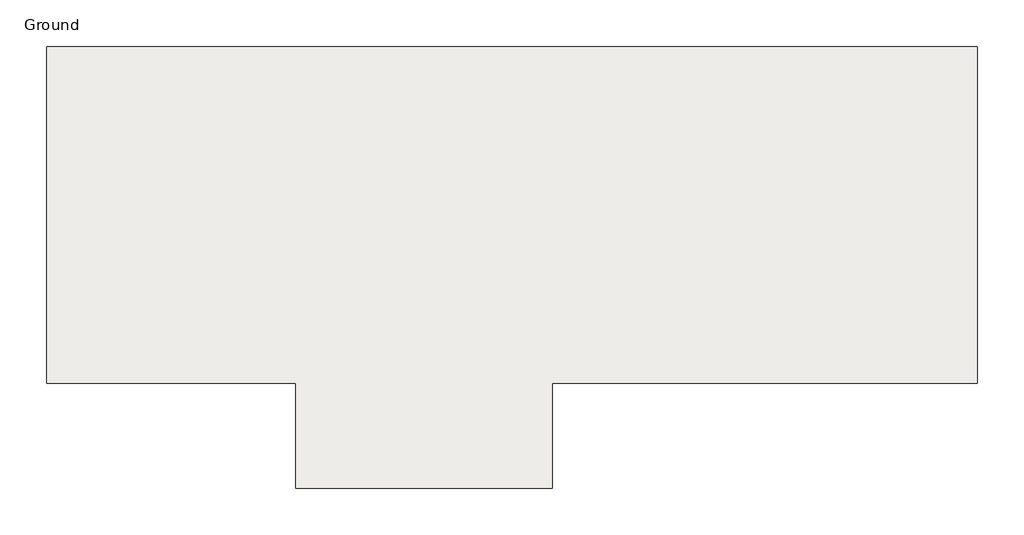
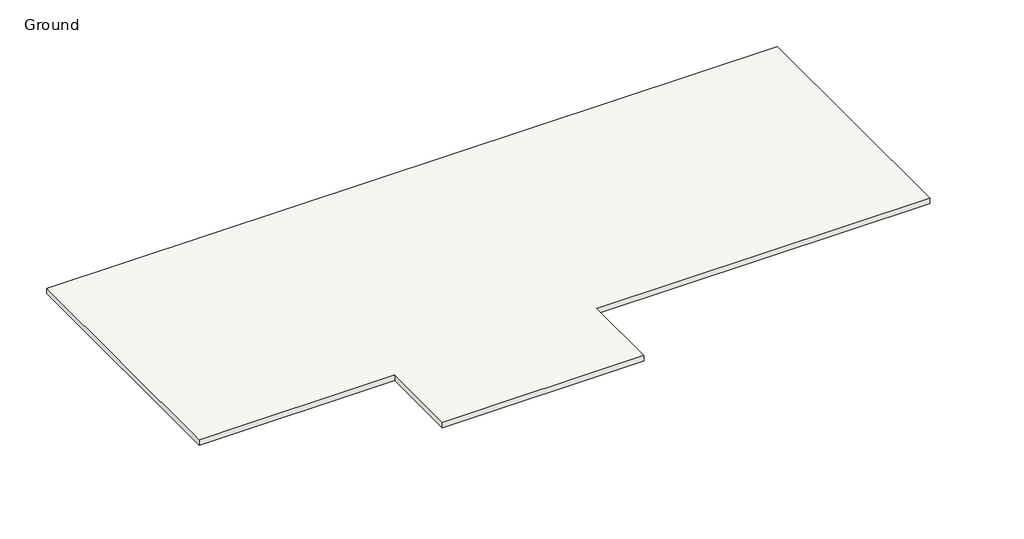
# One storey: 1 slab.
"""IFC4 building model written with IfcOpenShell, lengths in millimetres."""

import ifcopenshell
import ifcopenshell.guid

model = None  # the IFC model being written
_history = None  # IfcOwnerHistory: only IFC2X3 demands one
_inside = {}  # id of a spatial element -> (the spatial element, [elements in it])
_under = {}  # id of a project, library or spatial element -> (it, [spatial elements below it])
_declared = {}  # id of a project -> (the project, [libraries it declares])
_typed = {}  # id of a type object -> (the type object, [elements of that type])
_made_of = {}  # id of a material, layer set ... -> (it, [elements and type objects made of it])


def new_model(schema):
    """Start an empty IFC model of exactly this schema.

    Asked for "IFC4X3", IfcOpenShell would pick the latest addendum, in which some entities
    have other attributes; the version numbers below select the first issue.
    IFC2X3 requires an IfcOwnerHistory on every rooted entity: one is made here for all.
    """
    global model, _history
    if schema == "IFC4X3":
        model = ifcopenshell.file(schema_version=(4, 3, 0, 0))
    else:
        model = ifcopenshell.file(schema=schema)
    _inside.clear()
    _under.clear()
    _declared.clear()
    _typed.clear()
    _made_of.clear()
    _history = None
    if model.schema == "IFC2X3":
        org = make("IfcOrganization", Name="unknown")
        user = make(
            "IfcPersonAndOrganization",
            ThePerson=make("IfcPerson", FamilyName="unknown"),
            TheOrganization=org,
        )
        app = make(
            "IfcApplication",
            ApplicationDeveloper=org,
            Version="unknown",
            ApplicationFullName="unknown",
            ApplicationIdentifier="unknown",
        )
        _history = make(
            "IfcOwnerHistory",
            OwningUser=user,
            OwningApplication=app,
            ChangeAction="ADDED",
            CreationDate=0,
        )
    return model


def make(cls, **values):
    """One entity of the class cls with the attributes given. An attribute that is None is left unset."""
    return model.create_entity(
        cls, **{name: value for name, value in values.items() if value is not None}
    )


def rooted(cls, **values):
    """An entity with a GlobalId (a new one), such as an element, a storey or a relation."""
    return make(cls, GlobalId=ifcopenshell.guid.new(), OwnerHistory=_history, **values)


def si_unit(unit_type, name, prefix=None):
    """IfcSIUnit, for example si_unit("LENGTHUNIT", "METRE", prefix="MILLI")."""
    return make("IfcSIUnit", UnitType=unit_type, Prefix=prefix, Name=name)


def assignment(units):
    """IfcUnitAssignment: the units of a project."""
    return None if units is None else make("IfcUnitAssignment", Units=units)


def point(xyz):
    """IfcCartesianPoint."""
    return None if xyz is None else make("IfcCartesianPoint", Coordinates=xyz)


def direction(xyz):
    """IfcDirection."""
    return None if xyz is None else make("IfcDirection", DirectionRatios=xyz)


def frame(location, z_axis=None, x_axis=None):
    """IfcAxis2Placement3D, a coordinate frame: its origin and axes. An axis left out is left unset."""
    return make(
        "IfcAxis2Placement3D",
        Location=point(location),
        Axis=direction(z_axis),
        RefDirection=direction(x_axis),
    )


def origin():
    """The frame at (0, 0, 0) with its axes left unset."""
    return frame((0.0, 0.0, 0.0))


def place(relative_to, where):
    """IfcLocalPlacement: puts the frame where relative to a parent placement (None: the world)."""
    return make(
        "IfcLocalPlacement", PlacementRelTo=relative_to, RelativePlacement=where
    )


def context(
    kind, dimensions, precision=None, world=None, true_north=None, identifier=None
):
    """IfcGeometricRepresentationContext, for example the 3D "Model" context."""
    return make(
        "IfcGeometricRepresentationContext",
        ContextIdentifier=identifier,
        ContextType=kind,
        CoordinateSpaceDimension=dimensions,
        Precision=precision,
        WorldCoordinateSystem=world,
        TrueNorth=true_north,
    )


def project(units=None, contexts=None):
    """IfcProject with its units and contexts."""
    return rooted(
        "IfcProject",
        Name="project",
        RepresentationContexts=contexts,
        UnitsInContext=assignment(units),
    )


def spatial(cls, under=None, at=None, **own):
    """A site, building, storey or space (cls), placed at a placement, below another one or the project."""
    s = rooted(cls, ObjectPlacement=at, **own)
    if under is not None:
        _under.setdefault(under.id(), (under, []))[1].append(s)
    return s


def polyline(points):
    """IfcPolyline through the points."""
    return make("IfcPolyline", Points=[point(p) for p in points])


def outline(outer, holes=None, kind="AREA"):
    """IfcArbitraryClosedProfileDef: a profile drawn as a closed curve; with holes, ...WithVoids."""
    if holes is None:
        return make("IfcArbitraryClosedProfileDef", ProfileType=kind, OuterCurve=outer)
    return make(
        "IfcArbitraryProfileDefWithVoids",
        ProfileType=kind,
        OuterCurve=outer,
        InnerCurves=holes,
    )


def extrude(swept, where, along, depth):
    """IfcExtrudedAreaSolid: the profile swept, set in the frame where, extruded along a direction by depth."""
    return make(
        "IfcExtrudedAreaSolid",
        SweptArea=swept,
        Position=where,
        ExtrudedDirection=direction(along),
        Depth=depth,
    )


def shape(context_of_items, identifier, shape_type, items):
    """IfcShapeRepresentation: the items that make up one representation, for example the "Body"."""
    return make(
        "IfcShapeRepresentation",
        ContextOfItems=context_of_items,
        RepresentationIdentifier=identifier,
        RepresentationType=shape_type,
        Items=items,
    )


def made_of(thing, what):
    """Note that an element or type object is made of a material, layer set ...; save() writes the relation."""
    if what is not None:
        _made_of.setdefault(what.id(), (what, []))[1].append(thing)
    return thing


def element(
    cls,
    number,
    at=None,
    inside=None,
    cuts=None,
    type_object=None,
    material=None,
    context=None,
    identifier="Body",
    shape_type=None,
    held_by="IfcProductDefinitionShape",
    body=None,
    shapes=None,
    **own,
):
    """One element of the class cls, such as IfcWall. Its Tag is "e" and its number.

    at: its placement. inside: the storey or other place that contains it. cuts: it is an
    opening in that element (IfcRelVoidsElement). A single representation is given by context,
    identifier, shape_type and body (its items); several are given by shapes. held_by: the class
    of the entity that holds the representations. save() writes the other relations.
    """
    e = rooted(cls, Tag="e%d" % number, ObjectPlacement=at, **own)
    if body is not None:
        shapes = [shape(context, identifier, shape_type, body)]
    if shapes is not None:
        e.Representation = make(held_by, Representations=shapes)
    if inside is not None:
        _inside.setdefault(inside.id(), (inside, []))[1].append(e)
    if cuts is not None:
        rooted(
            "IfcRelVoidsElement", RelatingBuildingElement=cuts, RelatedOpeningElement=e
        )
    if type_object is not None:
        _typed.setdefault(type_object.id(), (type_object, []))[1].append(e)
    return made_of(e, material)


def aggregate(whole, parts):
    """IfcRelAggregates: a whole, such as a stair, and the parts it consists of."""
    return rooted("IfcRelAggregates", RelatingObject=whole, RelatedObjects=parts)


def save(model, path):
    """Write the relations noted so far, then the file.

    IfcRelAggregates (storeys below a building ...), IfcRelContainedInSpatialStructure (elements
    in a storey), IfcRelDefinesByType, IfcRelAssociatesMaterial and IfcRelDeclares: one each for
    every whole, place, type object, material and project.
    """
    for whole, parts in _under.values():
        aggregate(whole, parts)
    for where, things in _inside.values():
        rooted(
            "IfcRelContainedInSpatialStructure",
            RelatedElements=things,
            RelatingStructure=where,
        )
    for kind, things in _typed.values():
        rooted("IfcRelDefinesByType", RelatedObjects=things, RelatingType=kind)
    for what, things in _made_of.values():
        rooted("IfcRelAssociatesMaterial", RelatedObjects=things, RelatingMaterial=what)
    for by, libraries in _declared.values():
        rooted("IfcRelDeclares", RelatingContext=by, RelatedDefinitions=libraries)
    model.write(path)


model = new_model("IFC4")

# Units and contexts
model_context = context("Model", 3, world=origin())
ifc_project = project(units=[si_unit("LENGTHUNIT", "METRE", prefix="MILLI")], contexts=[model_context])

# Site, building, storey
site = spatial("IfcSite", under=ifc_project)
building = spatial("IfcBuilding", under=site)
storey = spatial("IfcBuildingStorey", under=building, Name="Ground", Elevation=0.0)

# Slab
placement = place(None, origin())
element("IfcSlab", 1, ObjectType="Generic 300mm", at=placement, inside=storey, context=model_context, shape_type="SweptSolid", body=[
    extrude(outline(polyline([(7289.1937633, 10076.2191387), (7289.1937633, -3684.2308613), (-10084.4062367, -3684.2308613), (-10084.4062367, -7981.5933613), (-20576.1937367, -7981.5933613), (-20576.1937367, -3696.9308613), (-30767.9437367, -3696.9308613), (-30767.9437367, 10076.2191387), (7289.1937633, 10076.2191387)])), frame((0.0, 0.0, -300.0), z_axis=(0.0, 0.0, 1.0), x_axis=(1.0, 0.0, 0.0)), (0.0, 0.0, 1.0), 300.0),
])

save(model, "model.ifc")
